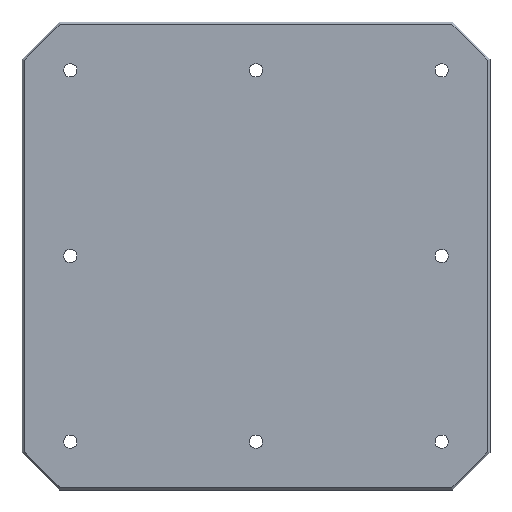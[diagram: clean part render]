
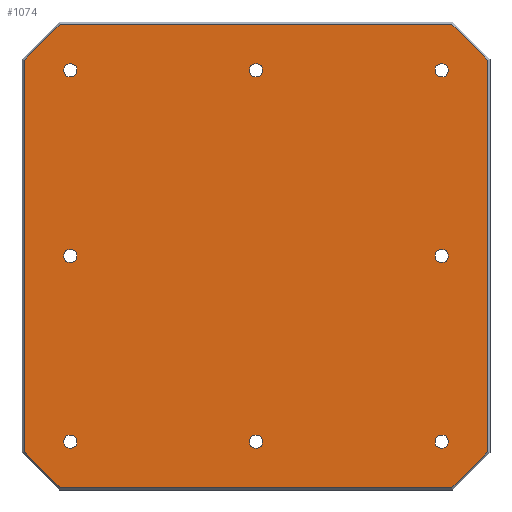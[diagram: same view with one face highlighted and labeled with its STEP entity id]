
A CAD part, front view. The second image highlights one B-rep face of the part: STEP entity #1074.
In plain terms, the highlighted planar face has unit normal (0, -1, 0).
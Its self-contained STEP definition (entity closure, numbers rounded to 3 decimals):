
#1=CARTESIAN_POINT('',(0.,-25.,-250.));
#2=DIRECTION('',(0.,1.,0.));
#3=DIRECTION('',(1.,0.,0.));
#4=AXIS2_PLACEMENT_3D('',#1,#2,#3);
#6=CARTESIAN_POINT('',(0.,-25.,-250.));
#7=DIRECTION('',(0.,1.,0.));
#8=DIRECTION('',(-1.,0.,0.));
#9=AXIS2_PLACEMENT_3D('',#6,#7,#8);
#11=CARTESIAN_POINT('',(0.,-25.,250.));
#12=DIRECTION('',(0.,1.,0.));
#13=DIRECTION('',(1.,0.,0.));
#14=AXIS2_PLACEMENT_3D('',#11,#12,#13);
#16=CARTESIAN_POINT('',(0.,-25.,250.));
#17=DIRECTION('',(0.,1.,0.));
#18=DIRECTION('',(-1.,0.,0.));
#19=AXIS2_PLACEMENT_3D('',#16,#17,#18);
#21=CARTESIAN_POINT('',(-250.,-25.,250.));
#22=DIRECTION('',(0.,1.,0.));
#23=DIRECTION('',(1.,0.,0.));
#24=AXIS2_PLACEMENT_3D('',#21,#22,#23);
#26=CARTESIAN_POINT('',(-250.,-25.,250.));
#27=DIRECTION('',(0.,1.,0.));
#28=DIRECTION('',(-1.,0.,0.));
#29=AXIS2_PLACEMENT_3D('',#26,#27,#28);
#31=CARTESIAN_POINT('',(-250.,-25.,0.));
#32=DIRECTION('',(0.,1.,0.));
#33=DIRECTION('',(1.,0.,0.));
#34=AXIS2_PLACEMENT_3D('',#31,#32,#33);
#36=CARTESIAN_POINT('',(-250.,-25.,0.));
#37=DIRECTION('',(0.,1.,0.));
#38=DIRECTION('',(-1.,0.,0.));
#39=AXIS2_PLACEMENT_3D('',#36,#37,#38);
#41=CARTESIAN_POINT('',(-250.,-25.,-250.));
#42=DIRECTION('',(0.,1.,0.));
#43=DIRECTION('',(1.,0.,0.));
#44=AXIS2_PLACEMENT_3D('',#41,#42,#43);
#46=CARTESIAN_POINT('',(-250.,-25.,-250.));
#47=DIRECTION('',(0.,1.,0.));
#48=DIRECTION('',(-1.,0.,0.));
#49=AXIS2_PLACEMENT_3D('',#46,#47,#48);
#51=CARTESIAN_POINT('',(250.,-25.,250.));
#52=DIRECTION('',(0.,-1.,0.));
#53=DIRECTION('',(-1.,0.,0.));
#54=AXIS2_PLACEMENT_3D('',#51,#52,#53);
#56=CARTESIAN_POINT('',(250.,-25.,250.));
#57=DIRECTION('',(0.,-1.,0.));
#58=DIRECTION('',(1.,0.,0.));
#59=AXIS2_PLACEMENT_3D('',#56,#57,#58);
#61=CARTESIAN_POINT('',(250.,-25.,0.));
#62=DIRECTION('',(0.,-1.,0.));
#63=DIRECTION('',(-1.,0.,0.));
#64=AXIS2_PLACEMENT_3D('',#61,#62,#63);
#66=CARTESIAN_POINT('',(250.,-25.,0.));
#67=DIRECTION('',(0.,-1.,0.));
#68=DIRECTION('',(1.,0.,0.));
#69=AXIS2_PLACEMENT_3D('',#66,#67,#68);
#71=CARTESIAN_POINT('',(250.,-25.,-250.));
#72=DIRECTION('',(0.,-1.,0.));
#73=DIRECTION('',(-1.,0.,0.));
#74=AXIS2_PLACEMENT_3D('',#71,#72,#73);
#76=CARTESIAN_POINT('',(250.,-25.,-250.));
#77=DIRECTION('',(0.,-1.,0.));
#78=DIRECTION('',(1.,0.,0.));
#79=AXIS2_PLACEMENT_3D('',#76,#77,#78);
#81=DIRECTION('',(-0.707,0.,-0.707));
#82=VECTOR('',#81,68.225);
#83=CARTESIAN_POINT('',(-263.757,-25.,312.));
#84=LINE('',#83,#82);
#85=DIRECTION('',(-1.,0.,0.));
#86=VECTOR('',#85,527.515);
#87=CARTESIAN_POINT('',(263.757,-25.,312.));
#88=LINE('',#87,#86);
#89=DIRECTION('',(-0.707,0.,0.707));
#90=VECTOR('',#89,68.225);
#91=CARTESIAN_POINT('',(312.,-25.,263.757));
#92=LINE('',#91,#90);
#93=DIRECTION('',(0.,0.,1.));
#94=VECTOR('',#93,527.515);
#95=CARTESIAN_POINT('',(312.,-25.,-263.757));
#96=LINE('',#95,#94);
#97=DIRECTION('',(0.707,0.,0.707));
#98=VECTOR('',#97,68.225);
#99=CARTESIAN_POINT('',(263.757,-25.,-312.));
#100=LINE('',#99,#98);
#101=DIRECTION('',(1.,0.,0.));
#102=VECTOR('',#101,527.515);
#103=CARTESIAN_POINT('',(-263.757,-25.,-312.));
#104=LINE('',#103,#102);
#105=DIRECTION('',(0.707,0.,-0.707));
#106=VECTOR('',#105,68.225);
#107=CARTESIAN_POINT('',(-312.,-25.,-263.757));
#108=LINE('',#107,#106);
#109=DIRECTION('',(0.,0.,-1.));
#110=VECTOR('',#109,527.515);
#111=CARTESIAN_POINT('',(-312.,-25.,263.757));
#112=LINE('',#111,#110);
#789=CARTESIAN_POINT('',(-241.,-25.,250.));
#790=CARTESIAN_POINT('',(-259.,-25.,250.));
#791=VERTEX_POINT('',#789);
#792=VERTEX_POINT('',#790);
#805=CARTESIAN_POINT('',(-241.,-25.,0.));
#806=CARTESIAN_POINT('',(-259.,-25.,0.));
#807=VERTEX_POINT('',#805);
#808=VERTEX_POINT('',#806);
#821=CARTESIAN_POINT('',(-241.,-25.,-250.));
#822=CARTESIAN_POINT('',(-259.,-25.,-250.));
#823=VERTEX_POINT('',#821);
#824=VERTEX_POINT('',#822);
#837=CARTESIAN_POINT('',(241.,-25.,250.));
#838=VERTEX_POINT('',#837);
#841=CARTESIAN_POINT('',(259.,-25.,250.));
#842=VERTEX_POINT('',#841);
#853=CARTESIAN_POINT('',(241.,-25.,0.));
#854=VERTEX_POINT('',#853);
#857=CARTESIAN_POINT('',(259.,-25.,0.));
#858=VERTEX_POINT('',#857);
#869=CARTESIAN_POINT('',(241.,-25.,-250.));
#870=VERTEX_POINT('',#869);
#873=CARTESIAN_POINT('',(259.,-25.,-250.));
#874=VERTEX_POINT('',#873);
#893=CARTESIAN_POINT('',(9.,-25.,250.));
#894=VERTEX_POINT('',#893);
#895=CARTESIAN_POINT('',(-9.,-25.,250.));
#896=VERTEX_POINT('',#895);
#901=CARTESIAN_POINT('',(9.,-25.,-250.));
#902=VERTEX_POINT('',#901);
#903=CARTESIAN_POINT('',(-9.,-25.,-250.));
#904=VERTEX_POINT('',#903);
#975=CARTESIAN_POINT('',(-263.757,-25.,312.));
#976=CARTESIAN_POINT('',(-312.,-25.,263.757));
#977=VERTEX_POINT('',#975);
#978=VERTEX_POINT('',#976);
#981=CARTESIAN_POINT('',(-312.,-25.,-263.757));
#982=VERTEX_POINT('',#981);
#983=CARTESIAN_POINT('',(-263.757,-25.,-312.));
#984=VERTEX_POINT('',#983);
#989=CARTESIAN_POINT('',(263.757,-25.,-312.));
#990=VERTEX_POINT('',#989);
#991=CARTESIAN_POINT('',(312.,-25.,-263.757));
#992=VERTEX_POINT('',#991);
#997=CARTESIAN_POINT('',(312.,-25.,263.757));
#998=VERTEX_POINT('',#997);
#999=CARTESIAN_POINT('',(263.757,-25.,312.));
#1000=VERTEX_POINT('',#999);
#1003=CARTESIAN_POINT('',(0.,-25.,0.));
#1004=DIRECTION('',(0.,1.,0.));
#1005=DIRECTION('',(1.,0.,0.));
#1006=AXIS2_PLACEMENT_3D('',#1003,#1004,#1005);
#1007=PLANE('',#1006);
#1009=ORIENTED_EDGE('',*,*,#1008,.F.);
#1011=ORIENTED_EDGE('',*,*,#1010,.F.);
#1013=ORIENTED_EDGE('',*,*,#1012,.F.);
#1015=ORIENTED_EDGE('',*,*,#1014,.F.);
#1017=ORIENTED_EDGE('',*,*,#1016,.F.);
#1019=ORIENTED_EDGE('',*,*,#1018,.F.);
#1021=ORIENTED_EDGE('',*,*,#1020,.F.);
#1023=ORIENTED_EDGE('',*,*,#1022,.F.);
#1024=EDGE_LOOP('',(#1009,#1011,#1013,#1015,#1017,#1019,#1021,#1023));
#1025=FACE_OUTER_BOUND('',#1024,.F.);
#1027=ORIENTED_EDGE('',*,*,#1026,.F.);
#1029=ORIENTED_EDGE('',*,*,#1028,.F.);
#1030=EDGE_LOOP('',(#1027,#1029));
#1031=FACE_BOUND('',#1030,.F.);
#1033=ORIENTED_EDGE('',*,*,#1032,.F.);
#1035=ORIENTED_EDGE('',*,*,#1034,.F.);
#1036=EDGE_LOOP('',(#1033,#1035));
#1037=FACE_BOUND('',#1036,.F.);
#1039=ORIENTED_EDGE('',*,*,#1038,.F.);
#1041=ORIENTED_EDGE('',*,*,#1040,.F.);
#1042=EDGE_LOOP('',(#1039,#1041));
#1043=FACE_BOUND('',#1042,.F.);
#1045=ORIENTED_EDGE('',*,*,#1044,.F.);
#1047=ORIENTED_EDGE('',*,*,#1046,.F.);
#1048=EDGE_LOOP('',(#1045,#1047));
#1049=FACE_BOUND('',#1048,.F.);
#1051=ORIENTED_EDGE('',*,*,#1050,.T.);
#1053=ORIENTED_EDGE('',*,*,#1052,.T.);
#1054=EDGE_LOOP('',(#1051,#1053));
#1055=FACE_BOUND('',#1054,.F.);
#1057=ORIENTED_EDGE('',*,*,#1056,.T.);
#1059=ORIENTED_EDGE('',*,*,#1058,.T.);
#1060=EDGE_LOOP('',(#1057,#1059));
#1061=FACE_BOUND('',#1060,.F.);
#1063=ORIENTED_EDGE('',*,*,#1062,.T.);
#1065=ORIENTED_EDGE('',*,*,#1064,.T.);
#1066=EDGE_LOOP('',(#1063,#1065));
#1067=FACE_BOUND('',#1066,.F.);
#1069=ORIENTED_EDGE('',*,*,#1068,.F.);
#1071=ORIENTED_EDGE('',*,*,#1070,.F.);
#1072=EDGE_LOOP('',(#1069,#1071));
#1073=FACE_BOUND('',#1072,.F.);
#1074=ADVANCED_FACE('',(#1025,#1031,#1037,#1043,#1049,#1055,#1061,#1067,#1073),
#1007,.F.);
#5=CIRCLE('',#4,9.);
#10=CIRCLE('',#9,9.);
#15=CIRCLE('',#14,9.);
#20=CIRCLE('',#19,9.);
#25=CIRCLE('',#24,9.);
#30=CIRCLE('',#29,9.);
#35=CIRCLE('',#34,9.);
#40=CIRCLE('',#39,9.);
#45=CIRCLE('',#44,9.);
#50=CIRCLE('',#49,9.);
#55=CIRCLE('',#54,9.);
#60=CIRCLE('',#59,9.);
#65=CIRCLE('',#64,9.);
#70=CIRCLE('',#69,9.);
#75=CIRCLE('',#74,9.);
#80=CIRCLE('',#79,9.);
#1008=EDGE_CURVE('',#977,#978,#84,.T.);
#1010=EDGE_CURVE('',#1000,#977,#88,.T.);
#1012=EDGE_CURVE('',#998,#1000,#92,.T.);
#1014=EDGE_CURVE('',#992,#998,#96,.T.);
#1016=EDGE_CURVE('',#990,#992,#100,.T.);
#1018=EDGE_CURVE('',#984,#990,#104,.T.);
#1020=EDGE_CURVE('',#982,#984,#108,.T.);
#1022=EDGE_CURVE('',#978,#982,#112,.T.);
#1026=EDGE_CURVE('',#894,#896,#15,.T.);
#1028=EDGE_CURVE('',#896,#894,#20,.T.);
#1032=EDGE_CURVE('',#791,#792,#25,.T.);
#1034=EDGE_CURVE('',#792,#791,#30,.T.);
#1038=EDGE_CURVE('',#807,#808,#35,.T.);
#1040=EDGE_CURVE('',#808,#807,#40,.T.);
#1044=EDGE_CURVE('',#823,#824,#45,.T.);
#1046=EDGE_CURVE('',#824,#823,#50,.T.);
#1050=EDGE_CURVE('',#838,#842,#55,.T.);
#1052=EDGE_CURVE('',#842,#838,#60,.T.);
#1056=EDGE_CURVE('',#854,#858,#65,.T.);
#1058=EDGE_CURVE('',#858,#854,#70,.T.);
#1062=EDGE_CURVE('',#870,#874,#75,.T.);
#1064=EDGE_CURVE('',#874,#870,#80,.T.);
#1068=EDGE_CURVE('',#902,#904,#5,.T.);
#1070=EDGE_CURVE('',#904,#902,#10,.T.);
